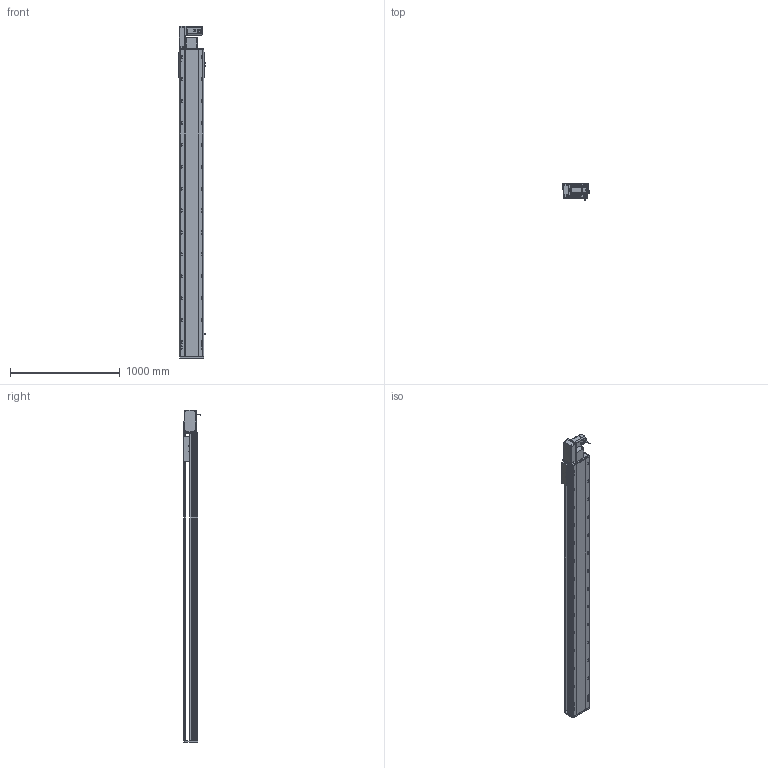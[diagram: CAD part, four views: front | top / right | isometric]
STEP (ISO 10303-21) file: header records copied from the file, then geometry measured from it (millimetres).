
FILE_DESCRIPTION (( 'STEP AP214' ), '1' );
FILE_NAME ('RTB22S-XX-2450-L-M75-C4.STEP', '2025-12-12T03:27:17', ( '' ), ( '' ), 'SwSTEP 2.0', 'SolidWorks 2018', '' );
FILE_SCHEMA (( 'AUTOMOTIVE_DESIGN' ));
Length unit declared in the file: millimetre
Products named in the file (14): RTB22S-GY-007奻裔^RTB22S-XX-XX-L-M75-C4; RTB22S-GY-008-M75--萇儂啣^RTB22S-L-々湍釱蚾饜_RTB22S-XX-XX-L-M75-C4; RTB22S-L-004賑釱^RTB22S-XX-XX-L-M75-C4; RTB22S-XX-2450-L-M75-C4; 750W萇儂^RTB22S-XX-XX-L-M75-C4; RTB22S-L-011菁釱^RTB22S-XX-XX-L-M75-C4; RTH22-GY-013外置感应片^RTB22S-XX-XX-L-M75-C4; RTB22S-GY-017P^RTB22S-L-々湍釱蚾饜_RTB22S-XX-XX-L-M75-C4; RTB22S-GY-001耜裔^RTB22S-XX-XX-L-M75-C4; OMRON EE-SX672 传感器^RTB22S-XX-XX-L-M75-C4; RTB22S-GY-014--々湍釱^RTB22S-L-々湍釱蚾饜_RTB22S-XX-XX-L-M75-C4; RTB22S-GY-005P^RTB22S-L-々湍釱蚾饜_RTB22S-XX-XX-L-M75-C4; RTB22S-L-々湍釱蚾饜^RTB22S-XX-XX-L-M75-C4; RTB22S-GY-018P^RTB22S-L-々湍釱蚾饜_RTB22S-XX-XX-L-M75-C4
Assembly tree (16 placements, depth 3):
  RTB22S-XX-2450-L-M75-C4
    RTB22S-L-011菁釱^RTB22S-XX-XX-L-M75-C4
    750W萇儂^RTB22S-XX-XX-L-M75-C4
    RTB22S-L-004賑釱^RTB22S-XX-XX-L-M75-C4
    OMRON EE-SX672 传感器^RTB22S-XX-XX-L-M75-C4  x3
    RTH22-GY-013外置感应片^RTB22S-XX-XX-L-M75-C4
    RTB22S-GY-007奻裔^RTB22S-XX-XX-L-M75-C4
    RTB22S-GY-001耜裔^RTB22S-XX-XX-L-M75-C4
    RTB22S-L-々湍釱蚾饜^RTB22S-XX-XX-L-M75-C4
      RTB22S-GY-014--々湍釱^RTB22S-L-々湍釱蚾饜_RTB22S-XX-XX-L-M75-C4
      RTB22S-GY-017P^RTB22S-L-々湍釱蚾饜_RTB22S-XX-XX-L-M75-C4  x2
      RTB22S-GY-005P^RTB22S-L-々湍釱蚾饜_RTB22S-XX-XX-L-M75-C4
      RTB22S-GY-008-M75--萇儂啣^RTB22S-L-々湍釱蚾饜_RTB22S-XX-XX-L-M75-C4
      RTB22S-GY-018P^RTB22S-L-々湍釱蚾饜_RTB22S-XX-XX-L-M75-C4
Bounding box: 238.5 x 162.7 x 3029 mm (x, y, z)
Volume: 38177590.8 mm3; surface area: 3906830 mm2
Topology: 15 solids, 15 shells, 2109 faces, 5736 edges, 3662 vertices
Faces by surface type: plane 929, cylinder 706, bspline 296, cone 166, sphere 8, torus 4
Entity records: 57374 total; most frequent: CARTESIAN_POINT 16208, ORIENTED_EDGE 8204, DIRECTION 8016, EDGE_CURVE 4102, AXIS2_PLACEMENT_3D 2874, VERTEX_POINT 2666, LINE 2268, VECTOR 2268
